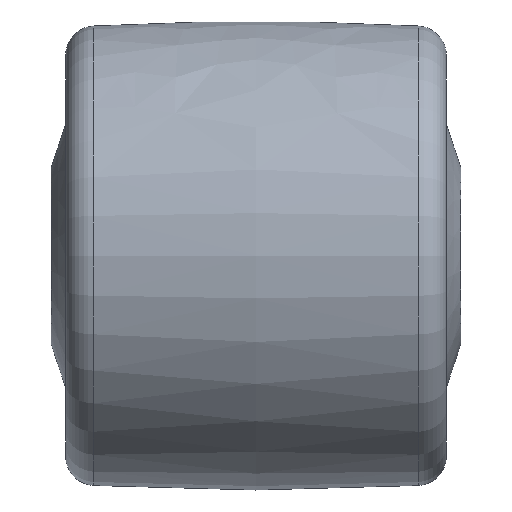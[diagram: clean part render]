
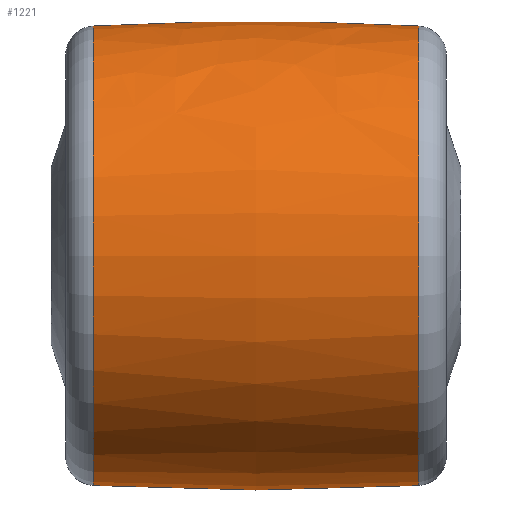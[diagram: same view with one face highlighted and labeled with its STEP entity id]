
A CAD part, front view. The second image highlights one B-rep face of the part: STEP entity #1221.
In plain terms, the highlighted free-form (B-spline) face has degree [2, 2] with [3, 9] control points.
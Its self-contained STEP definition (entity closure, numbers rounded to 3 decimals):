
#49=(
BOUNDED_SURFACE()
B_SPLINE_SURFACE(2,2,((#2152,#2153,#2154,#2155,#2156,#2157,#2158,#2159,
#2160),(#2161,#2162,#2163,#2164,#2165,#2166,#2167,#2168,#2169),(#2170,#2171,
#2172,#2173,#2174,#2175,#2176,#2177,#2178)),.UNSPECIFIED.,.F.,.T.,.F.)
B_SPLINE_SURFACE_WITH_KNOTS((3,3),(3,2,2,2,3),(-0.056,0.056),
(-3.142,-1.571,0.,1.571,3.142),
 .UNSPECIFIED.)
GEOMETRIC_REPRESENTATION_ITEM()
RATIONAL_B_SPLINE_SURFACE(((1.,0.707,1.,0.707,1.,
0.707,1.,0.707,1.),(0.998,0.706,
0.998,0.706,0.998,0.706,
0.998,0.706,0.998),(1.,0.707,
1.,0.707,1.,0.707,1.,0.707,1.)))
REPRESENTATION_ITEM('')
SURFACE()
);
#250=FACE_OUTER_BOUND('',#329,.T.);
#329=EDGE_LOOP('',(#951,#952,#953,#954,#955,#956));
#434=CIRCLE('',#1403,39.228);
#435=CIRCLE('',#1404,39.228);
#437=CIRCLE('',#1406,39.228);
#438=CIRCLE('',#1407,39.228);
#439=CIRCLE('',#1408,500.);
#570=VERTEX_POINT('',#2147);
#571=VERTEX_POINT('',#2148);
#572=VERTEX_POINT('',#2179);
#573=VERTEX_POINT('',#2180);
#726=EDGE_CURVE('',#570,#571,#434,.T.);
#727=EDGE_CURVE('',#571,#570,#435,.T.);
#729=EDGE_CURVE('',#572,#573,#437,.T.);
#730=EDGE_CURVE('',#573,#572,#438,.T.);
#731=EDGE_CURVE('',#573,#571,#439,.T.);
#951=ORIENTED_EDGE('',*,*,#729,.F.);
#952=ORIENTED_EDGE('',*,*,#730,.F.);
#953=ORIENTED_EDGE('',*,*,#731,.T.);
#954=ORIENTED_EDGE('',*,*,#727,.T.);
#955=ORIENTED_EDGE('',*,*,#726,.T.);
#956=ORIENTED_EDGE('',*,*,#731,.F.);
#1221=ADVANCED_FACE('',(#250),#49,.F.);
#1403=AXIS2_PLACEMENT_3D('',#2149,#1698,#1699);
#1404=AXIS2_PLACEMENT_3D('',#2150,#1700,#1701);
#1406=AXIS2_PLACEMENT_3D('',#2181,#1704,#1705);
#1407=AXIS2_PLACEMENT_3D('',#2182,#1706,#1707);
#1408=AXIS2_PLACEMENT_3D('',#2183,#1708,#1709);
#1698=DIRECTION('center_axis',(1.,0.,0.));
#1699=DIRECTION('ref_axis',(0.,0.,-1.));
#1700=DIRECTION('center_axis',(1.,0.,0.));
#1701=DIRECTION('ref_axis',(0.,0.,-1.));
#1704=DIRECTION('center_axis',(1.,0.,0.));
#1705=DIRECTION('ref_axis',(0.,0.,-1.));
#1706=DIRECTION('center_axis',(1.,0.,0.));
#1707=DIRECTION('ref_axis',(0.,0.,-1.));
#1708=DIRECTION('center_axis',(0.,-1.,0.));
#1709=DIRECTION('ref_axis',(0.,0.,1.));
#2147=CARTESIAN_POINT('',(4.722,0.,-39.228));
#2148=CARTESIAN_POINT('',(4.722,0.,39.228));
#2149=CARTESIAN_POINT('Origin',(4.722,0.,0.));
#2150=CARTESIAN_POINT('Origin',(4.722,0.,0.));
#2152=CARTESIAN_POINT('Ctrl Pts',(4.722,0.,39.228));
#2153=CARTESIAN_POINT('Ctrl Pts',(4.722,-39.228,39.228));
#2154=CARTESIAN_POINT('Ctrl Pts',(4.722,-39.228,0.));
#2155=CARTESIAN_POINT('Ctrl Pts',(4.722,-39.228,-39.228));
#2156=CARTESIAN_POINT('Ctrl Pts',(4.722,0.,-39.228));
#2157=CARTESIAN_POINT('Ctrl Pts',(4.722,39.228,-39.228));
#2158=CARTESIAN_POINT('Ctrl Pts',(4.722,39.228,0.));
#2159=CARTESIAN_POINT('Ctrl Pts',(4.722,39.228,39.228));
#2160=CARTESIAN_POINT('Ctrl Pts',(4.722,0.,39.228));
#2161=CARTESIAN_POINT('Ctrl Pts',(32.5,0.,40.773));
#2162=CARTESIAN_POINT('Ctrl Pts',(32.5,-40.773,40.773));
#2163=CARTESIAN_POINT('Ctrl Pts',(32.5,-40.773,0.));
#2164=CARTESIAN_POINT('Ctrl Pts',(32.5,-40.773,-40.773));
#2165=CARTESIAN_POINT('Ctrl Pts',(32.5,0.,-40.773));
#2166=CARTESIAN_POINT('Ctrl Pts',(32.5,40.773,-40.773));
#2167=CARTESIAN_POINT('Ctrl Pts',(32.5,40.773,0.));
#2168=CARTESIAN_POINT('Ctrl Pts',(32.5,40.773,40.773));
#2169=CARTESIAN_POINT('Ctrl Pts',(32.5,0.,40.773));
#2170=CARTESIAN_POINT('Ctrl Pts',(60.278,0.,39.228));
#2171=CARTESIAN_POINT('Ctrl Pts',(60.278,-39.228,39.228));
#2172=CARTESIAN_POINT('Ctrl Pts',(60.278,-39.228,0.));
#2173=CARTESIAN_POINT('Ctrl Pts',(60.278,-39.228,-39.228));
#2174=CARTESIAN_POINT('Ctrl Pts',(60.278,0.,-39.228));
#2175=CARTESIAN_POINT('Ctrl Pts',(60.278,39.228,-39.228));
#2176=CARTESIAN_POINT('Ctrl Pts',(60.278,39.228,0.));
#2177=CARTESIAN_POINT('Ctrl Pts',(60.278,39.228,39.228));
#2178=CARTESIAN_POINT('Ctrl Pts',(60.278,0.,39.228));
#2179=CARTESIAN_POINT('',(60.278,0.,-39.228));
#2180=CARTESIAN_POINT('',(60.278,0.,39.228));
#2181=CARTESIAN_POINT('Origin',(60.278,0.,0.));
#2182=CARTESIAN_POINT('Origin',(60.278,0.,0.));
#2183=CARTESIAN_POINT('Origin',(32.5,0.,-460.));
